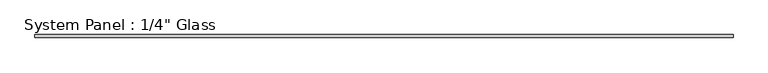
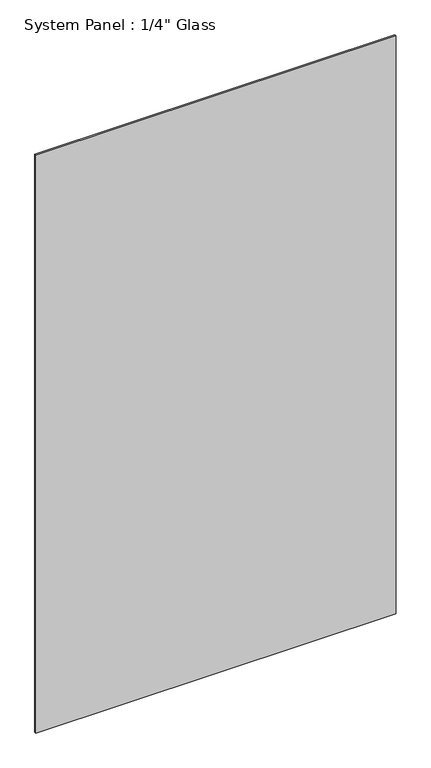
"""IFC4 building model written with IfcOpenShell, lengths in millimetres: plate geometry."""

from ifc_helpers import new_model, si_unit, origin, origin_with_axes, place, context, project, spatial, polyline, outline, extrude, source, transform, mapped, element, save


def plate_dca6a18a(model_context):
    return source(origin(), model_context, "Body", "SweptSolid", [
        extrude(outline(polyline([(734.470527, -3.175), (-734.470527, -3.175), (-734.470527, 3.175), (734.470527, 3.175), (734.470527, -3.175)])), origin_with_axes(), (0.0, 0.0, 1.0), 2489.2),
    ])


if __name__ == "__main__":
    model = new_model("IFC4")
    model_context = context("Model", 3, world=origin())
    ifc_project = project(units=[si_unit("LENGTHUNIT", "METRE", prefix="MILLI")], contexts=[model_context])
    site = spatial("IfcSite", under=ifc_project)
    building = spatial("IfcBuilding", under=site)
    placement = place(None, origin())
    plate_shape = plate_dca6a18a(model_context)
    element("IfcPlate", 1, ObjectType="System Panel : 1/4\" Glass", at=placement, inside=building, context=model_context, shape_type="MappedRepresentation", body=[
        mapped(plate_shape, transform((0.0, 0.0, 0.0), x_axis=(1.0, 0.0, 0.0), y_axis=(0.0, 1.0, 0.0), z_axis=(0.0, 0.0, 1.0))),
    ])
    save(model, "model.ifc")
